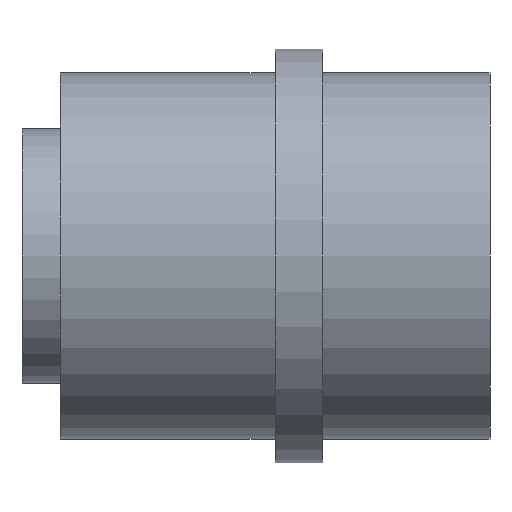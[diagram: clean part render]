
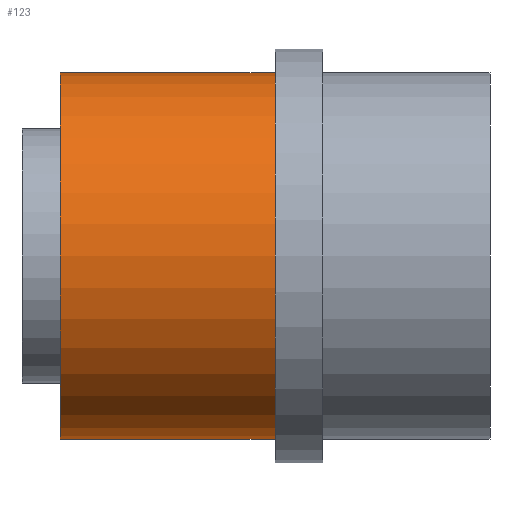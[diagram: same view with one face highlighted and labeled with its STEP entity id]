
A CAD part, front view. The second image highlights one B-rep face of the part: STEP entity #123.
In plain terms, the highlighted cylindrical face has radius 23 mm (diameter 46 mm), a partial arc.
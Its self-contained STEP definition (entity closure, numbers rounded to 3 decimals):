
#11 = CARTESIAN_POINT ( 'NONE',  ( 4.8, 0., -23. ) ) ;
#25 = EDGE_CURVE ( 'NONE', #434, #421, #496, .T. ) ;
#44 = CIRCLE ( 'NONE', #461, 23. ) ;
#74 = FACE_OUTER_BOUND ( 'NONE', #372, .T. ) ;
#102 = CARTESIAN_POINT ( 'NONE',  ( 31.8, 0., -23. ) ) ;
#108 = EDGE_CURVE ( 'NONE', #220, #349, #243, .T. ) ;
#123 = ADVANCED_FACE ( 'NONE', ( #74 ), #325, .T. ) ;
#129 = ORIENTED_EDGE ( 'NONE', *, *, #265, .T. ) ;
#135 = DIRECTION ( 'NONE',  ( -1., 0., 0. ) ) ;
#137 = VECTOR ( 'NONE', #237, 1000. ) ;
#147 = ORIENTED_EDGE ( 'NONE', *, *, #25, .F. ) ;
#148 = CARTESIAN_POINT ( 'NONE',  ( 0., 0., 23. ) ) ;
#174 = AXIS2_PLACEMENT_3D ( 'NONE', #299, #487, #534 ) ;
#197 = CARTESIAN_POINT ( 'NONE',  ( 4.8, 0., 23. ) ) ;
#200 = ORIENTED_EDGE ( 'NONE', *, *, #273, .F. ) ;
#220 = VERTEX_POINT ( 'NONE', #395 ) ;
#237 = DIRECTION ( 'NONE',  ( -1., 0., 0. ) ) ;
#243 = LINE ( 'NONE', #148, #494 ) ;
#263 = CIRCLE ( 'NONE', #174, 23. ) ;
#265 = EDGE_CURVE ( 'NONE', #434, #220, #44, .T. ) ;
#273 = EDGE_CURVE ( 'NONE', #421, #349, #263, .T. ) ;
#278 = DIRECTION ( 'NONE',  ( 0., 0., 1. ) ) ;
#299 = CARTESIAN_POINT ( 'NONE',  ( 4.8, 0., 0. ) ) ;
#322 = CARTESIAN_POINT ( 'NONE',  ( 0., 0., -23. ) ) ;
#325 = CYLINDRICAL_SURFACE ( 'NONE', #345, 23. ) ;
#345 = AXIS2_PLACEMENT_3D ( 'NONE', #386, #508, #278 ) ;
#349 = VERTEX_POINT ( 'NONE', #197 ) ;
#372 = EDGE_LOOP ( 'NONE', ( #147, #129, #510, #200 ) ) ;
#386 = CARTESIAN_POINT ( 'NONE',  ( 0., 0., 0. ) ) ;
#395 = CARTESIAN_POINT ( 'NONE',  ( 31.8, 0., 23. ) ) ;
#421 = VERTEX_POINT ( 'NONE', #11 ) ;
#434 = VERTEX_POINT ( 'NONE', #102 ) ;
#453 = DIRECTION ( 'NONE',  ( 0., 0., 1. ) ) ;
#460 = DIRECTION ( 'NONE',  ( -1., 0., 0. ) ) ;
#461 = AXIS2_PLACEMENT_3D ( 'NONE', #475, #460, #453 ) ;
#475 = CARTESIAN_POINT ( 'NONE',  ( 31.8, 0., 0. ) ) ;
#487 = DIRECTION ( 'NONE',  ( -1., 0., 0. ) ) ;
#494 = VECTOR ( 'NONE', #135, 1000. ) ;
#496 = LINE ( 'NONE', #322, #137 ) ;
#508 = DIRECTION ( 'NONE',  ( -1., 0., 0. ) ) ;
#510 = ORIENTED_EDGE ( 'NONE', *, *, #108, .T. ) ;
#534 = DIRECTION ( 'NONE',  ( 0., 0., 1. ) ) ;
